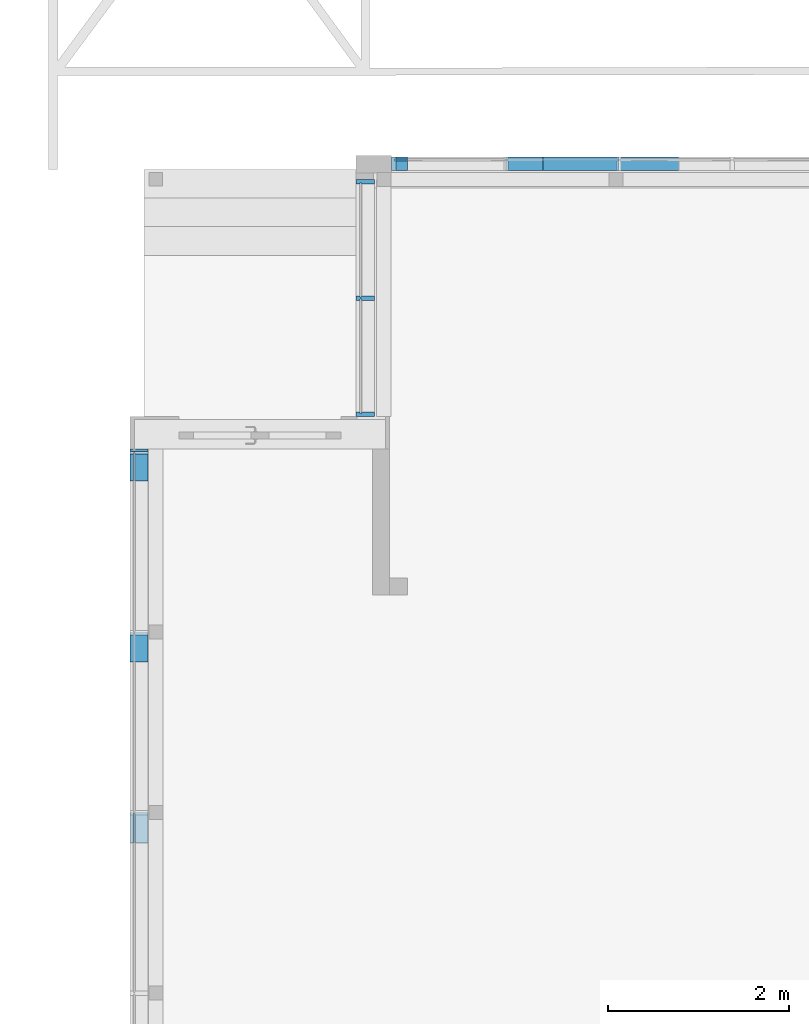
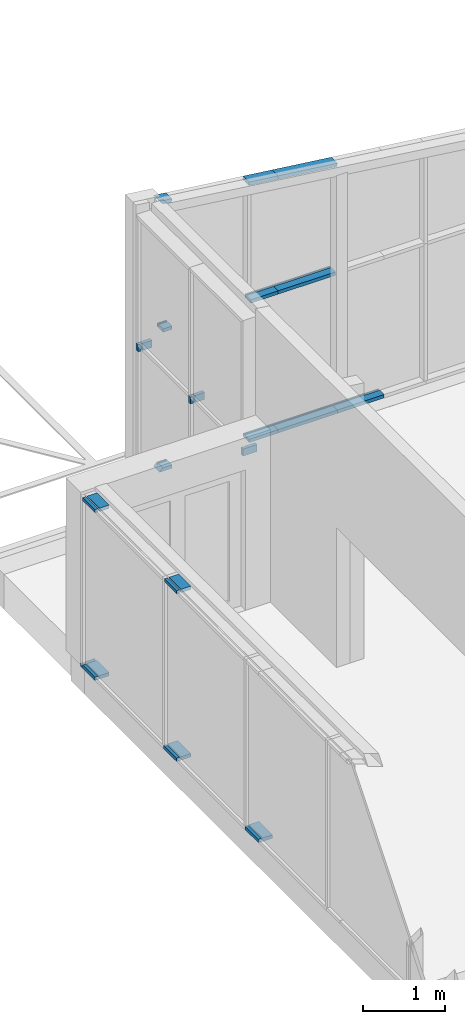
# One storey, part 71 of 301: 19 members, 3 elements without a shape of their own.
"""IFC2X3 building model written with IfcOpenShell, lengths in millimetres."""

from ifc_helpers import new_model, entity, si_unit, converted_unit, derived_unit, money_unit, direction, frame, origin_with_axes, place, context, subcontext, project, spatial, faceted_brep, material, type_object, element, aggregate, save


model = new_model("IFC2X3")

# Units and contexts
model_context = context("Model", 3, precision=0.01, world=origin_with_axes(), true_north=direction((0.0, 1.0)))
body_context = subcontext(model_context, "Body", "Model", "MODEL_VIEW")
ifc_project = project(units=[si_unit("LENGTHUNIT", "METRE", prefix="MILLI"), si_unit("AREAUNIT", "SQUARE_METRE"), si_unit("VOLUMEUNIT", "CUBIC_METRE"), converted_unit("PLANEANGLEUNIT", "DEGREE", entity("IfcPlaneAngleMeasure", 0.0174532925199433), si_unit("PLANEANGLEUNIT", "RADIAN"), dimensions=[0, 0, 0, 0, 0, 0, 0]), money_unit("EUR"), converted_unit("TIMEUNIT", "Year", entity("IfcTimeMeasure", 31557600.0), si_unit("TIMEUNIT", "SECOND"), dimensions=[0, 0, 1, 0, 0, 0, 0]), si_unit("MASSUNIT", "GRAM", prefix="KILO"), si_unit("THERMODYNAMICTEMPERATUREUNIT", "DEGREE_CELSIUS"), si_unit("LUMINOUSINTENSITYUNIT", "LUMEN"), si_unit("ENERGYUNIT", "JOULE", prefix="MEGA"), derived_unit("THERMALCONDUCTANCEUNIT", [(si_unit("POWERUNIT", "WATT"), 1), (si_unit("LENGTHUNIT", "METRE"), -1), (si_unit("THERMODYNAMICTEMPERATUREUNIT", "KELVIN"), -1)]), derived_unit("SPECIFICHEATCAPACITYUNIT", [(si_unit("ENERGYUNIT", "JOULE"), 1), (si_unit("MASSUNIT", "GRAM", prefix="KILO"), -1), (si_unit("THERMODYNAMICTEMPERATUREUNIT", "KELVIN"), -1)]), derived_unit("MASSDENSITYUNIT", [(si_unit("MASSUNIT", "GRAM", prefix="KILO"), 1), (si_unit("VOLUMEUNIT", "CUBIC_METRE"), -1)])], contexts=[model_context])

# Site, building, storey
site_placement = place(None, frame((0.0, 0.0, 8650.0), z_axis=(0.0, 0.0, 1.0), x_axis=(1.0, 0.0, 0.0)))
site = spatial("IfcSite", under=ifc_project, at=site_placement, Name="43301:001:0844", CompositionType="ELEMENT")
building_placement = place(site_placement, origin_with_axes())
building = spatial("IfcBuilding", under=site, at=building_placement, Name="Kuressaare Ametikooli tuulikute mehaanikute õppekorpus", CompositionType="ELEMENT")
storey_placement = place(building_placement, origin_with_axes())
storey = spatial("IfcBuildingStorey", under=building, at=storey_placement, Name="1.korrus", CompositionType="ELEMENT", Elevation=0.0)

# Curtain wall, members
curtain_wall_type = type_object("IfcCurtainWallType", Name="Curtain Wall Type", PredefinedType="NOTDEFINED")
curtain_wall_1_placement = place(storey_placement, frame((118344.5490393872, 39517.28066569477, -20.0), z_axis=(0.0, 0.0, 1.0), x_axis=(1.0, 0.0, 0.0)))
curtain_wall_1 = element("IfcCurtainWall", 1, at=curtain_wall_1_placement, inside=storey, type_object=curtain_wall_type, Name="KF-XX")
ifc_material = material(Name="Metall - Alumiinium")
member_type_1 = type_object("IfcMemberType", Name="Boundary Frame 50 x 200", PredefinedType="NOTDEFINED")
member_1_placement = place(curtain_wall_1_placement, frame((0.0, 801.5043310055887, 0.0), z_axis=(0.0, -1.0, 0.0), x_axis=(0.0, 0.0, 1.0)))
member_1 = element("IfcMember", 2, at=member_1_placement, type_object=member_type_1, material=ifc_material, context=body_context, shape_type="Brep", body=[
    faceted_brep([(35.0, -10.00000000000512, 7.450898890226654), (35.0, 10.00000000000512, 7.450898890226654), (49.90179778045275, 10.00000000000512, 0.0), (49.90179778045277, 49.99999999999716, 0.0), (0.0, 49.99999999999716, 24.95089889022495), (0.0, 0.0, 24.95089889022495), (0.0, -150.0000000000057, 24.95089889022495), (49.90179778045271, -150.0000000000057, 0.0), (49.90179778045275, -10.00000000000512, 0.0), (35.0, -10.00000000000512, 0.0), (35.0, 10.00000000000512, 0.0), (0.0, -150.0000000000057, 0.0), (0.0, 0.0, 0.0), (0.0, 49.99999999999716, 0.0)], [[[0, 1, 2, 3, 4, 5, 6, 7, 8]], [[1, 0, 9, 10]], [[10, 2, 1]], [[9, 8, 7, 11, 12, 13, 3, 2, 10]], [[3, 13, 4]], [[12, 5, 4, 13]], [[11, 6, 5, 12]], [[11, 7, 6]], [[0, 8, 9]]]),
])
member_2_placement = place(curtain_wall_1_placement, frame((0.0, -3216.533766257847, 0.0), z_axis=(0.0, -1.0, 0.0), x_axis=(0.0, 0.0, 1.0)))
member_2 = element("IfcMember", 3, at=member_2_placement, type_object=member_type_1, material=ifc_material, context=body_context, shape_type="Brep", body=[
    faceted_brep([(35.00000000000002, -10.00000000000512, 333.485896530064), (35.00000000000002, 10.00000000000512, 333.485896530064), (50.00000000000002, 10.00000000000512, 333.485896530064), (50.00000000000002, 49.99999999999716, 333.485896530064), (0.0, 49.99999999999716, 333.485896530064), (0.0, 0.0, 333.485896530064), (0.0, -150.0000000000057, 333.485896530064), (50.00000000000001, -150.0000000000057, 333.485896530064), (50.00000000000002, -10.00000000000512, 333.485896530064), (35.0, -10.00000000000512, 0.0), (35.0, 10.00000000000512, 0.0), (50.0, 10.00000000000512, 0.0), (50.0, 49.99999999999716, 0.0), (0.0, 49.99999999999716, 0.0), (0.0, 0.0, 0.0), (0.0, -150.0000000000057, 0.0), (49.99999999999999, -150.0000000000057, 0.0), (50.0, -10.00000000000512, 0.0)], [[[0, 1, 2, 3, 4, 5, 6, 7, 8]], [[1, 0, 9, 10]], [[11, 2, 1, 10]], [[2, 11, 12, 3]], [[13, 4, 3, 12]], [[14, 5, 4, 13]], [[15, 6, 5, 14]], [[16, 7, 6, 15]], [[17, 8, 7, 16]], [[0, 8, 17, 9]], [[9, 17, 16, 15, 14, 13, 12, 11, 10]]]),
])
member_3_placement = place(curtain_wall_1_placement, frame((0.0, -1226.533769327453, 0.0), z_axis=(0.0, -1.0, 0.0), x_axis=(0.0, 0.0, 1.0)))
member_3 = element("IfcMember", 4, at=member_3_placement, type_object=member_type_1, material=ifc_material, context=body_context, shape_type="Brep", body=[
    faceted_brep([(35.00000000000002, -10.00000000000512, 323.4858934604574), (35.00000000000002, 10.00000000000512, 323.4858934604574), (50.00000000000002, 10.00000000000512, 323.4858934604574), (50.00000000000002, 49.99999999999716, 323.4858934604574), (0.0, 49.99999999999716, 323.4858934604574), (0.0, 0.0, 323.4858934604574), (0.0, -150.0000000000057, 323.4858934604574), (50.00000000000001, -150.0000000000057, 323.4858934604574), (50.00000000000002, -10.00000000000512, 323.4858934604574), (35.0, -10.00000000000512, 0.0), (35.0, 10.00000000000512, 0.0), (50.0, 10.00000000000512, 0.0), (50.0, 49.99999999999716, 0.0), (0.0, 49.99999999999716, 0.0), (0.0, 0.0, 0.0), (0.0, -150.0000000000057, 0.0), (49.99999999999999, -150.0000000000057, 0.0), (50.0, -10.00000000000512, 0.0)], [[[0, 1, 2, 3, 4, 5, 6, 7, 8]], [[1, 0, 9, 10]], [[11, 2, 1, 10]], [[2, 11, 12, 3]], [[13, 4, 3, 12]], [[14, 5, 4, 13]], [[15, 6, 5, 14]], [[16, 7, 6, 15]], [[17, 8, 7, 16]], [[0, 8, 17, 9]], [[9, 17, 16, 15, 14, 13, 12, 11, 10]]]),
])
member_4_placement = place(curtain_wall_1_placement, frame((0.0, 776.5534321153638, 0.0), z_axis=(0.0, -1.0, 0.0), x_axis=(0.0, 0.0, 1.0)))
member_4 = element("IfcMember", 5, at=member_4_placement, type_object=member_type_1, material=ifc_material, context=body_context, shape_type="Brep", body=[
    faceted_brep([(35.00000000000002, -10.00000000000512, 326.5730949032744), (35.00000000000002, 10.00000000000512, 326.5730949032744), (50.00000000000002, 10.00000000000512, 326.5730949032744), (50.00000000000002, 49.99999999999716, 326.5730949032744), (0.0, 49.99999999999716, 326.5730949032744), (0.0, 0.0, 326.5730949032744), (0.0, -150.0000000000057, 326.5730949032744), (50.00000000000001, -150.0000000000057, 326.5730949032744), (50.00000000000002, -10.00000000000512, 326.5730949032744), (35.0, -10.00000000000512, 17.49999999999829), (35.0, 10.00000000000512, 17.49999999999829), (50.0, 10.00000000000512, 24.99999999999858), (50.0, 49.99999999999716, 24.99999999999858), (0.0, 49.99999999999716, 0.0), (0.0, 0.0, 0.0), (0.0, -150.0000000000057, 0.0), (49.99999999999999, -150.0000000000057, 24.99999999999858), (50.0, -10.00000000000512, 24.99999999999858)], [[[0, 1, 2, 3, 4, 5, 6, 7, 8]], [[1, 0, 9, 10]], [[11, 2, 1, 10]], [[2, 11, 12, 3]], [[4, 3, 12, 13]], [[5, 4, 13, 14]], [[6, 5, 14, 15]], [[7, 6, 15, 16]], [[17, 8, 7, 16]], [[0, 8, 17, 9]], [[9, 17, 16, 15, 14, 13, 12, 11, 10]]]),
])

curtain_wall_2_placement = place(storey_placement, frame((120847.1885681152, 42644.61724537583, 0.0), z_axis=(0.0, 0.0, 1.0), x_axis=(1.0, 0.0, 0.0)))
curtain_wall_2 = element("IfcCurtainWall", 6, at=curtain_wall_2_placement, inside=storey, type_object=curtain_wall_type)
member_5_placement = place(curtain_wall_2_placement, frame((0.0, 655.0000000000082, 2025.000039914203), z_axis=(0.0, 0.0, 1.0), x_axis=(0.0, 1.0, 0.0)))
member_5 = element("IfcMember", 7, at=member_5_placement, type_object=member_type_1, material=ifc_material, context=body_context, shape_type="Brep", body=[
    faceted_brep([(-34.99999999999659, -10.00000000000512, 105.0000030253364), (-49.99999999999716, -10.00000000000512, 105.0000030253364), (-49.99999999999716, -150.0000000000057, 105.0000030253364), (0.0, -150.0000000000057, 105.0000030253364), (0.0, 0.0, 105.0000030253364), (0.0, 49.99999999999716, 105.0000030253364), (-49.99999999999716, 49.99999999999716, 105.0000030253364), (-49.99999999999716, 10.00000000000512, 105.0000030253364), (-34.99999999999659, 10.00000000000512, 105.0000030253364), (-34.99999999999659, -10.00000000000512, 0.0), (-49.99999999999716, -10.00000000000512, 0.0), (-49.99999999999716, -150.0000000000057, 0.0), (0.0, -150.0000000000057, 0.0), (0.0, 0.0, 0.0), (0.0, 49.99999999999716, 0.0), (-49.99999999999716, 49.99999999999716, 0.0), (-49.99999999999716, 10.00000000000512, 0.0), (-34.99999999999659, 10.00000000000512, 0.0)], [[[0, 1, 2, 3, 4, 5, 6, 7, 8]], [[0, 9, 10, 1]], [[10, 11, 2, 1]], [[11, 12, 3, 2]], [[12, 13, 4, 3]], [[13, 14, 5, 4]], [[14, 15, 6, 5]], [[7, 6, 15, 16]], [[16, 17, 8, 7]], [[8, 17, 9, 0]], [[9, 17, 16, 15, 14, 13, 12, 11, 10]]]),
])
member_6_placement = place(curtain_wall_2_placement, frame((0.0, -1964.95053232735, 2025.000039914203), z_axis=(0.0, 0.0, 1.0), x_axis=(0.0, 1.0, 0.0)))
member_6 = element("IfcMember", 8, at=member_6_placement, type_object=member_type_1, material=ifc_material, context=body_context, shape_type="Brep", body=[
    faceted_brep([(34.99999999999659, -10.00000000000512, 105.0000030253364), (34.99999999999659, 10.00000000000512, 105.0000030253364), (49.99999999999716, 10.00000000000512, 105.0000030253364), (49.99999999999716, 49.99999999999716, 105.0000030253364), (0.0, 49.99999999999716, 105.0000030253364), (0.0, 0.0, 105.0000030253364), (0.0, -150.0000000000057, 105.0000030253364), (49.99999999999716, -150.0000000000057, 105.0000030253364), (49.99999999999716, -10.00000000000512, 105.0000030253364), (34.99999999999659, -10.00000000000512, 0.0), (34.99999999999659, 10.00000000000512, 0.0), (49.99999999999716, 10.00000000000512, 0.0), (49.99999999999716, 49.99999999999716, 0.0), (0.0, 49.99999999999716, 0.0), (0.0, 0.0, 0.0), (0.0, -150.0000000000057, 0.0), (49.99999999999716, -150.0000000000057, 0.0), (49.99999999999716, -10.00000000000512, 0.0)], [[[0, 1, 2, 3, 4, 5, 6, 7, 8]], [[1, 0, 9, 10]], [[11, 2, 1, 10]], [[2, 11, 12, 3]], [[13, 4, 3, 12]], [[14, 5, 4, 13]], [[15, 6, 5, 14]], [[16, 7, 6, 15]], [[17, 8, 7, 16]], [[0, 8, 17, 9]], [[9, 17, 16, 15, 14, 13, 12, 11, 10]]]),
])
member_7_placement = place(curtain_wall_2_placement, frame((0.0, -654.9999999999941, 2025.000039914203), z_axis=(0.0, 0.0, 1.0), x_axis=(0.0, 1.0, 0.0)))
member_7 = element("IfcMember", 9, at=member_7_placement, type_object=member_type_1, material=ifc_material, context=body_context, shape_type="Brep", body=[
    faceted_brep([(-9.99999999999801, -10.00000000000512, 105.0000030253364), (-24.99999999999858, -10.00000000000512, 105.0000030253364), (-24.99999999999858, -150.0000000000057, 105.0000030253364), (24.99999999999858, -150.0000000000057, 105.0000030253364), (24.99999999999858, -10.00000000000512, 105.0000030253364), (9.99999999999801, -10.00000000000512, 105.0000030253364), (9.99999999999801, 10.00000000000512, 105.0000030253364), (24.99999999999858, 10.00000000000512, 105.0000030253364), (24.99999999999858, 49.99999999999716, 105.0000030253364), (-24.99999999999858, 49.99999999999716, 105.0000030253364), (-24.99999999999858, 10.00000000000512, 105.0000030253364), (-9.99999999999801, 10.00000000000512, 105.0000030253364), (-9.99999999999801, -10.00000000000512, 0.0), (-24.99999999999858, -10.00000000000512, 0.0), (-24.99999999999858, -150.0000000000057, 0.0), (24.99999999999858, -150.0000000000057, 0.0), (24.99999999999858, -10.00000000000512, 0.0), (9.99999999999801, -10.00000000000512, 0.0), (9.99999999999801, 10.00000000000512, 0.0), (24.99999999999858, 10.00000000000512, 0.0), (24.99999999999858, 49.99999999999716, 0.0), (-24.99999999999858, 49.99999999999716, 0.0), (-24.99999999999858, 10.00000000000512, 0.0), (-9.99999999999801, 10.00000000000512, 0.0)], [[[0, 1, 2, 3, 4, 5, 6, 7, 8, 9, 10, 11]], [[1, 0, 12, 13]], [[1, 13, 14, 2]], [[3, 2, 14, 15]], [[4, 3, 15, 16]], [[4, 16, 17, 5]], [[5, 17, 18, 6]], [[7, 6, 18, 19]], [[19, 20, 8, 7]], [[9, 8, 20, 21]], [[22, 10, 9, 21]], [[11, 10, 22, 23]], [[0, 11, 23, 12]], [[23, 22, 21, 20, 19, 18, 17, 16, 15, 14, 13, 12]]]),
])
aggregate(curtain_wall_2, [member_5, member_6, member_7])

# Member
member_type_2 = type_object("IfcMemberType", Name="Transom Frame 50 x 200", PredefinedType="NOTDEFINED")
member_8_placement = place(curtain_wall_1_placement, frame((0.0, 776.5534321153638, 2530.000039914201), z_axis=(0.0, -1.0, 0.0), x_axis=(0.0, 0.0, 1.0)))
member_8 = element("IfcMember", 10, at=member_8_placement, type_object=member_type_2, material=ifc_material, context=body_context, shape_type="Brep", body=[
    faceted_brep([(-9.999999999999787, -10.00000000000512, 326.5730949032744), (-24.99999999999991, -10.00000000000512, 326.5730949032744), (-24.99999999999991, -150.0000000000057, 326.5730949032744), (24.99999999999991, -150.0000000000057, 326.5730949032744), (24.99999999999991, -10.00000000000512, 326.5730949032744), (10.00000000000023, -10.00000000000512, 326.5730949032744), (10.00000000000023, 10.00000000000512, 326.5730949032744), (24.99999999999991, 10.00000000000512, 326.5730949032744), (24.99999999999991, 49.99999999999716, 326.5730949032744), (-24.99999999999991, 49.99999999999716, 326.5730949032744), (-24.99999999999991, 10.00000000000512, 326.5730949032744), (-9.999999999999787, 10.00000000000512, 326.5730949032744), (-9.999999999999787, -10.00000000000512, 24.99999999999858), (-24.99999999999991, -10.00000000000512, 24.99999999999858), (-24.99999999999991, -150.0000000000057, 24.99999999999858), (24.99999999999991, -150.0000000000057, 24.99999999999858), (24.99999999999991, -10.00000000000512, 24.99999999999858), (9.999999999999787, -10.00000000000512, 24.99999999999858), (9.999999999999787, 10.00000000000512, 24.99999999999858), (24.99999999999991, 10.00000000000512, 24.99999999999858), (24.99999999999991, 49.99999999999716, 24.99999999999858), (-24.99999999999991, 49.99999999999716, 24.99999999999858), (-24.99999999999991, 10.00000000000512, 24.99999999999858), (-9.999999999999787, 10.00000000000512, 24.99999999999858)], [[[0, 1, 2, 3, 4, 5, 6, 7, 8, 9, 10, 11]], [[1, 0, 12, 13]], [[1, 13, 14, 2]], [[2, 14, 15, 3]], [[4, 3, 15, 16]], [[4, 16, 17, 5]], [[5, 17, 18, 6]], [[7, 6, 18, 19]], [[19, 20, 8, 7]], [[8, 20, 21, 9]], [[22, 10, 9, 21]], [[11, 10, 22, 23]], [[0, 11, 23, 12]], [[23, 22, 21, 20, 19, 18, 17, 16, 15, 14, 13, 12]]]),
])

member_9_placement = place(curtain_wall_1_placement, frame((0.0, -1226.533769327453, 2530.000039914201), z_axis=(0.0, -1.0, 0.0), x_axis=(0.0, 0.0, 1.0)))
member_9 = element("IfcMember", 11, at=member_9_placement, type_object=member_type_2, material=ifc_material, context=body_context, shape_type="Brep", body=[
    faceted_brep([(-9.999999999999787, -10.00000000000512, 323.4858934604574), (-24.99999999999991, -10.00000000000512, 323.4858934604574), (-24.99999999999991, -150.0000000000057, 323.4858934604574), (24.99999999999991, -150.0000000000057, 323.4858934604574), (24.99999999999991, -10.00000000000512, 323.4858934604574), (10.00000000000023, -10.00000000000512, 323.4858934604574), (10.00000000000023, 10.00000000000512, 323.4858934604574), (24.99999999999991, 10.00000000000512, 323.4858934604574), (24.99999999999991, 49.99999999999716, 323.4858934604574), (-24.99999999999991, 49.99999999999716, 323.4858934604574), (-24.99999999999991, 10.00000000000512, 323.4858934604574), (-9.999999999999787, 10.00000000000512, 323.4858934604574), (-9.999999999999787, -10.00000000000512, 24.99999999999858), (-24.99999999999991, -10.00000000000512, 24.99999999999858), (-24.99999999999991, -150.0000000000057, 24.99999999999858), (24.99999999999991, -150.0000000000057, 24.99999999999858), (24.99999999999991, -10.00000000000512, 24.99999999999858), (9.999999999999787, -10.00000000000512, 24.99999999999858), (9.999999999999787, 10.00000000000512, 24.99999999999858), (24.99999999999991, 10.00000000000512, 24.99999999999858), (24.99999999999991, 49.99999999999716, 24.99999999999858), (-24.99999999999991, 49.99999999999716, 24.99999999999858), (-24.99999999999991, 10.00000000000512, 24.99999999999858), (-9.999999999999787, 10.00000000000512, 24.99999999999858)], [[[0, 1, 2, 3, 4, 5, 6, 7, 8, 9, 10, 11]], [[1, 0, 12, 13]], [[1, 13, 14, 2]], [[2, 14, 15, 3]], [[4, 3, 15, 16]], [[4, 16, 17, 5]], [[5, 17, 18, 6]], [[7, 6, 18, 19]], [[19, 20, 8, 7]], [[8, 20, 21, 9]], [[22, 10, 9, 21]], [[11, 10, 22, 23]], [[0, 11, 23, 12]], [[23, 22, 21, 20, 19, 18, 17, 16, 15, 14, 13, 12]]]),
])

aggregate(curtain_wall_1, [member_8, member_1, member_2, member_3, member_4, member_9])

# Curtain wall, members
curtain_wall_3_placement = place(storey_placement, frame((123006.726034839, 43517.8284534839, -3.991420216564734e-05), z_axis=(0.0, 0.0, 1.0), x_axis=(1.0, 0.0, 0.0)))
curtain_wall_3 = element("IfcCurtainWall", 12, at=curtain_wall_3_placement, inside=storey, type_object=curtain_wall_type, Name="KF-XX")
member_type_3 = type_object("IfcMemberType", Name="Boundary Frame 50 x 150", PredefinedType="NOTDEFINED")
member_10_placement = place(curtain_wall_3_placement, frame((-1820.473714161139, 0.0, 4049.999994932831), z_axis=(0.9924853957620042, 0.0, -0.1223631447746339), x_axis=(-0.1223631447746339, 0.0, -0.9924853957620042)))
member_10 = element("IfcMember", 13, at=member_10_placement, type_object=member_type_3, material=ifc_material, context=body_context, shape_type="Brep", body=[
    faceted_brep([(35.00000000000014, -9.99999999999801, 178.947094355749), (35.00000000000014, 9.99999999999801, 178.947094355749), (50.00000000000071, 9.99999999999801, 178.9470943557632), (50.00000000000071, 30.00000000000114, 178.9470943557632), (0.0, 30.00000000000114, 178.9470943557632), (0.0, 0.0, 178.9470943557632), (0.0, -119.9999999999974, 178.9470943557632), (50.00000000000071, -119.9999999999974, 178.9470943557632), (50.00000000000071, -9.99999999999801, 178.9470943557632), (35.00000000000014, -9.99999999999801, 39.58013914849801), (35.00000000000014, 9.99999999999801, 39.58013914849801), (50.00000000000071, 9.99999999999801, 56.54305592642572), (50.00000000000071, 30.00000000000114, 56.54305592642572), (0.0, 30.00000000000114, 0.0), (0.0, 0.0, 0.0), (0.0, -119.9999999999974, 0.0), (50.00000000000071, -119.9999999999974, 56.54305592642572), (50.00000000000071, -9.99999999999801, 56.54305592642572)], [[[0, 1, 2, 3, 4, 5, 6, 7, 8]], [[1, 0, 9, 10]], [[11, 2, 1, 10]], [[2, 11, 12, 3]], [[4, 3, 12, 13]], [[5, 4, 13, 14]], [[6, 5, 14, 15]], [[7, 6, 15, 16]], [[17, 8, 7, 16]], [[0, 8, 17, 9]], [[9, 17, 16, 15, 14, 13, 12, 11, 10]]]),
])
member_11_placement = place(curtain_wall_3_placement, frame((-552.1759647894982, 0.0, 3893.632345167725), z_axis=(0.9924854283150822, 0.0, -0.1223628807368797), x_axis=(-0.1223628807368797, 0.0, -0.9924854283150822)))
member_11 = element("IfcMember", 14, at=member_11_placement, type_object=member_type_3, material=ifc_material, context=body_context, shape_type="Brep", body=[
    faceted_brep([(35.00000000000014, -9.99999999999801, 412.4036604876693), (35.00000000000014, 9.99999999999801, 412.4036604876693), (49.99999999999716, 9.99999999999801, 412.4036604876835), (49.99999999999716, 30.00000000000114, 412.4036604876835), (0.0, 30.00000000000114, 412.4036604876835), (0.0, 0.0, 412.4036604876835), (0.0, -119.9999999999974, 412.4036604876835), (49.99999999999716, -119.9999999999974, 412.4036604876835), (49.99999999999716, -9.99999999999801, 412.4036604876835), (34.99999999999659, -9.99999999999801, 0.0), (34.99999999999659, 9.99999999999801, 0.0), (49.99999999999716, 9.99999999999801, 0.0), (49.99999999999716, 30.00000000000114, 0.0), (0.0, 30.00000000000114, 0.0), (0.0, 0.0, 0.0), (0.0, -119.9999999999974, 0.0), (49.99999999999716, -119.9999999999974, 0.0), (49.99999999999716, -9.99999999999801, 0.0)], [[[0, 1, 2, 3, 4, 5, 6, 7, 8]], [[1, 0, 9, 10]], [[11, 2, 1, 10]], [[2, 11, 12, 3]], [[13, 4, 3, 12]], [[14, 5, 4, 13]], [[15, 6, 5, 14]], [[16, 7, 6, 15]], [[17, 8, 7, 16]], [[0, 8, 17, 9]], [[9, 17, 16, 15, 14, 13, 12, 11, 10]]]),
])
member_12_placement = place(curtain_wall_3_placement, frame((-142.8713429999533, 0.0, 0.0), z_axis=(-1.0, 0.0, 0.0), x_axis=(0.0, 0.0, 1.0)))
member_12 = element("IfcMember", 15, at=member_12_placement, type_object=member_type_3, material=ifc_material, context=body_context, shape_type="Brep", body=[
    faceted_brep([(35.0, -9.99999999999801, 409.3046325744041), (35.0, 9.99999999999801, 409.3046325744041), (50.0, 9.99999999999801, 409.3046325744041), (50.0, 30.00000000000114, 409.3046325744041), (0.0, 30.00000000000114, 409.3046325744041), (0.0, 0.0, 409.3046325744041), (0.0, -119.9999999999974, 409.3046325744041), (50.0, -119.9999999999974, 409.3046325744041), (50.0, -9.99999999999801, 409.3046325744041), (35.0, -9.99999999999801, 0.0), (35.0, 9.99999999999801, 0.0), (50.0, 9.99999999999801, 0.0), (50.0, 30.00000000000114, 0.0), (0.0, 30.00000000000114, 0.0), (0.0, 0.0, 0.0), (0.0, -119.9999999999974, 0.0), (50.0, -119.9999999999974, 0.0), (50.0, -9.99999999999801, 0.0)], [[[0, 1, 2, 3, 4, 5, 6, 7, 8]], [[1, 0, 9, 10]], [[11, 2, 1, 10]], [[2, 11, 12, 3]], [[13, 4, 3, 12]], [[14, 5, 4, 13]], [[15, 6, 5, 14]], [[16, 7, 6, 15]], [[17, 8, 7, 16]], [[0, 8, 17, 9]], [[9, 17, 16, 15, 14, 13, 12, 11, 10]]]),
])
member_13_placement = place(curtain_wall_3_placement, frame((1357.128657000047, 0.0, 0.0), z_axis=(-1.0, 0.0, 0.0), x_axis=(0.0, 0.0, 1.0)))
member_13 = element("IfcMember", 16, at=member_13_placement, type_object=member_type_3, material=ifc_material, context=body_context, shape_type="Brep", body=[
    faceted_brep([(35.0, -9.99999999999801, 662.0813384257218), (35.0, 9.99999999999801, 662.0813384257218), (50.0, 9.99999999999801, 662.0813384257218), (50.0, 30.00000000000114, 662.0813384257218), (0.0, 30.00000000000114, 662.0813384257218), (0.0, 0.0, 662.0813384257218), (0.0, -119.9999999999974, 662.0813384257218), (50.0, -119.9999999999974, 662.0813384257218), (50.0, -9.99999999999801, 662.0813384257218), (35.0, -9.99999999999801, 0.0), (35.0, 9.99999999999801, 0.0), (50.0, 9.99999999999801, 0.0), (50.0, 30.00000000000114, 0.0), (0.0, 30.00000000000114, 0.0), (0.0, 0.0, 0.0), (0.0, -119.9999999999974, 0.0), (50.0, -119.9999999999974, 0.0), (50.0, -9.99999999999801, 0.0)], [[[0, 1, 2, 3, 4, 5, 6, 7, 8]], [[1, 0, 9, 10]], [[11, 2, 1, 10]], [[2, 11, 12, 3]], [[13, 4, 3, 12]], [[14, 5, 4, 13]], [[15, 6, 5, 14]], [[16, 7, 6, 15]], [[17, 8, 7, 16]], [[0, 8, 17, 9]], [[9, 17, 16, 15, 14, 13, 12, 11, 10]]]),
])
member_14_placement = place(curtain_wall_3_placement, frame((-142.8713429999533, 0.0, 3843.169445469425), z_axis=(0.9924854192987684, 0.0, -0.1223629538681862), x_axis=(-0.1223629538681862, 0.0, -0.9924854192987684)))
member_14 = element("IfcMember", 17, at=member_14_placement, type_object=member_type_3, material=ifc_material, context=body_context, shape_type="Brep", body=[
    faceted_brep([(35.00000000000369, -9.99999999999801, 844.2629481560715), (35.00000000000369, 9.99999999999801, 844.2629481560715), (50.00000000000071, 9.99999999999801, 844.2629481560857), (50.00000000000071, 30.00000000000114, 844.2629481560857), (0.0, 30.00000000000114, 844.2629481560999), (0.0, 0.0, 844.2629481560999), (0.0, -119.9999999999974, 844.2629481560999), (50.00000000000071, -119.9999999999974, 844.2629481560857), (50.00000000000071, -9.99999999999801, 844.2629481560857), (35.00000000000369, -9.99999999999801, -1.842124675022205e-06), (35.00000000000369, 9.99999999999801, -1.842124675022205e-06), (50.00000000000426, 9.99999999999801, -1.842124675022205e-06), (50.00000000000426, 30.00000000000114, -1.842124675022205e-06), (0.0, 30.00000000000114, -1.842124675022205e-06), (0.0, 0.0, -1.842124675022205e-06), (0.0, -119.9999999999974, -1.842124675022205e-06), (50.00000000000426, -119.9999999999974, -1.842124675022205e-06), (50.00000000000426, -9.99999999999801, -1.842124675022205e-06)], [[[0, 1, 2, 3, 4, 5, 6, 7, 8]], [[1, 0, 9, 10]], [[11, 2, 1, 10]], [[2, 11, 12, 3]], [[13, 4, 3, 12]], [[14, 5, 4, 13]], [[15, 6, 5, 14]], [[16, 7, 6, 15]], [[17, 8, 7, 16]], [[0, 8, 17, 9]], [[9, 17, 16, 15, 14, 13, 12, 11, 10]]]),
])
member_15_placement = place(curtain_wall_3_placement, frame((-1642.871342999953, 0.0, 0.0), z_axis=(-1.0, 0.0, 0.0), x_axis=(0.0, 0.0, 1.0)))
member_15 = element("IfcMember", 18, at=member_15_placement, type_object=member_type_3, material=ifc_material, context=body_context, shape_type="Brep", body=[
    faceted_brep([(35.0, -9.99999999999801, 142.602371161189), (35.0, 9.99999999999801, 142.602371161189), (50.0, 9.99999999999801, 127.6023711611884), (50.0, 30.00000000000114, 127.6023711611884), (0.0, 30.00000000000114, 177.6023711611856), (0.0, 0.0, 177.6023711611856), (0.0, -119.9999999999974, 177.6023711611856), (50.0, -119.9999999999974, 127.6023711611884), (50.0, -9.99999999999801, 127.6023711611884), (35.0, -9.99999999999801, 0.0), (35.0, 9.99999999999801, 0.0), (50.0, 9.99999999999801, 0.0), (50.0, 30.00000000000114, 0.0), (0.0, 30.00000000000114, 0.0), (0.0, 0.0, 0.0), (0.0, -119.9999999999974, 0.0), (50.0, -119.9999999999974, 0.0), (50.0, -9.99999999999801, 0.0)], [[[0, 1, 2, 3, 4, 5, 6, 7, 8]], [[1, 0, 9, 10]], [[11, 2, 1, 10]], [[2, 11, 12, 3]], [[13, 4, 3, 12]], [[14, 5, 4, 13]], [[15, 6, 5, 14]], [[16, 7, 6, 15]], [[17, 8, 7, 16]], [[0, 8, 17, 9]], [[9, 17, 16, 15, 14, 13, 12, 11, 10]]]),
])
member_16_placement = place(curtain_wall_3_placement, frame((695.0473185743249, 0.0, 0.0), z_axis=(-1.0, 0.0, 0.0), x_axis=(0.0, 0.0, 1.0)))
member_16 = element("IfcMember", 19, at=member_16_placement, type_object=member_type_3, material=ifc_material, context=body_context, shape_type="Brep", body=[
    faceted_brep([(35.0, -9.99999999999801, 837.9186615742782), (35.0, 9.99999999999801, 837.9186615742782), (50.0, 9.99999999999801, 837.9186615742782), (50.0, 30.00000000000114, 837.9186615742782), (0.0, 30.00000000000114, 837.9186615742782), (0.0, 0.0, 837.9186615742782), (0.0, -119.9999999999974, 837.9186615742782), (50.0, -119.9999999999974, 837.9186615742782), (50.0, -9.99999999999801, 837.9186615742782), (35.0, -9.99999999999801, 0.0), (35.0, 9.99999999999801, 0.0), (50.0, 9.99999999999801, 0.0), (50.0, 30.00000000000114, 0.0), (0.0, 30.00000000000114, 0.0), (0.0, 0.0, 0.0), (0.0, -119.9999999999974, 0.0), (50.0, -119.9999999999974, 0.0), (50.0, -9.99999999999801, 0.0)], [[[0, 1, 2, 3, 4, 5, 6, 7, 8]], [[1, 0, 9, 10]], [[11, 2, 1, 10]], [[2, 11, 12, 3]], [[13, 4, 3, 12]], [[14, 5, 4, 13]], [[15, 6, 5, 14]], [[16, 7, 6, 15]], [[17, 8, 7, 16]], [[0, 8, 17, 9]], [[9, 17, 16, 15, 14, 13, 12, 11, 10]]]),
])
member_type_4 = type_object("IfcMemberType", Name="Transom Frame 50 x 150", PredefinedType="NOTDEFINED")
member_17_placement = place(curtain_wall_3_placement, frame((695.0473185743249, 0.0, 2100.000039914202), z_axis=(-1.0, 0.0, 0.0), x_axis=(0.0, 0.0, 1.0)))
member_17 = element("IfcMember", 20, at=member_17_placement, type_object=member_type_4, material=ifc_material, context=body_context, shape_type="Brep", body=[
    faceted_brep([(-9.999999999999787, -9.99999999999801, 837.9186615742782), (-24.99999999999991, -9.99999999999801, 837.9186615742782), (-24.99999999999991, -119.9999999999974, 837.9186615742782), (24.99999999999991, -119.9999999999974, 837.9186615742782), (24.99999999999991, -9.99999999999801, 837.9186615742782), (9.999999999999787, -9.99999999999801, 837.9186615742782), (9.999999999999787, 9.99999999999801, 837.9186615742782), (24.99999999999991, 9.99999999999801, 837.9186615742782), (24.99999999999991, 30.00000000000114, 837.9186615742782), (-24.99999999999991, 30.00000000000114, 837.9186615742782), (-24.99999999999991, 9.99999999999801, 837.9186615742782), (-9.999999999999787, 9.99999999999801, 837.9186615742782), (-9.999999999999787, -9.99999999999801, 25.00000002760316), (-24.99999999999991, -9.99999999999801, 25.00000002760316), (-24.99999999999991, -119.9999999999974, 25.0000003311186), (24.99999999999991, -119.9999999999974, 25.0000003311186), (24.99999999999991, -9.99999999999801, 25.00000002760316), (9.999999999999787, -9.99999999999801, 25.00000002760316), (9.999999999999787, 9.99999999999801, 24.9999999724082), (24.99999999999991, 9.99999999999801, 24.9999999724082), (24.99999999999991, 30.00000000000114, 24.99999991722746), (-24.99999999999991, 30.00000000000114, 24.99999991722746), (-24.99999999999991, 9.99999999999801, 24.9999999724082), (-9.999999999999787, 9.99999999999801, 24.9999999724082)], [[[0, 1, 2, 3, 4, 5, 6, 7, 8, 9, 10, 11]], [[1, 0, 12, 13]], [[1, 13, 14, 2]], [[2, 14, 15, 3]], [[4, 3, 15, 16]], [[4, 16, 17, 5]], [[5, 17, 18, 6]], [[7, 6, 18, 19]], [[19, 20, 8, 7]], [[8, 20, 21, 9]], [[22, 10, 9, 21]], [[11, 10, 22, 23]], [[0, 11, 23, 12]], [[23, 22, 21, 20, 19, 18, 17, 16, 15, 14, 13, 12]]]),
])
member_18_placement = place(curtain_wall_3_placement, frame((-142.8713429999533, 0.0, 2100.000039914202), z_axis=(-1.0, 0.0, 0.0), x_axis=(0.0, 0.0, 1.0)))
member_18 = element("IfcMember", 21, at=member_18_placement, type_object=member_type_4, material=ifc_material, context=body_context, shape_type="Brep", body=[
    faceted_brep([(-9.999999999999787, -9.99999999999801, 384.3046325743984), (-24.99999999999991, -9.99999999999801, 384.3046325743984), (-24.99999999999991, -119.9999999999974, 384.3046325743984), (24.99999999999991, -119.9999999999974, 384.3046325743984), (24.99999999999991, -9.99999999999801, 384.3046325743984), (9.999999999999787, -9.99999999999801, 384.3046325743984), (9.999999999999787, 9.99999999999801, 384.3046325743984), (24.99999999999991, 9.99999999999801, 384.3046325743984), (24.99999999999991, 30.00000000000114, 384.3046325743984), (-24.99999999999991, 30.00000000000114, 384.3046325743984), (-24.99999999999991, 9.99999999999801, 384.3046325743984), (-9.999999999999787, 9.99999999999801, 384.3046325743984), (-9.999999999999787, -9.99999999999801, 0.0), (-24.99999999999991, -9.99999999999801, 0.0), (-24.99999999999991, -119.9999999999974, 0.0), (24.99999999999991, -119.9999999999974, 0.0), (24.99999999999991, -9.99999999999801, 0.0), (9.999999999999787, -9.99999999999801, 0.0), (9.999999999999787, 9.99999999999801, 0.0), (24.99999999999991, 9.99999999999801, 0.0), (24.99999999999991, 30.00000000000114, 0.0), (-24.99999999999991, 30.00000000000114, 0.0), (-24.99999999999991, 9.99999999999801, 0.0), (-9.999999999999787, 9.99999999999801, 0.0)], [[[0, 1, 2, 3, 4, 5, 6, 7, 8, 9, 10, 11]], [[1, 0, 12, 13]], [[1, 13, 14, 2]], [[3, 2, 14, 15]], [[4, 3, 15, 16]], [[4, 16, 17, 5]], [[5, 17, 18, 6]], [[7, 6, 18, 19]], [[19, 20, 8, 7]], [[9, 8, 20, 21]], [[22, 10, 9, 21]], [[11, 10, 22, 23]], [[0, 11, 23, 12]], [[23, 22, 21, 20, 19, 18, 17, 16, 15, 14, 13, 12]]]),
])
member_19_placement = place(curtain_wall_3_placement, frame((-1642.871342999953, 0.0, 2100.000039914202), z_axis=(-1.0, 0.0, 0.0), x_axis=(0.0, 0.0, 1.0)))
member_19 = element("IfcMember", 22, at=member_19_placement, type_object=member_type_4, material=ifc_material, context=body_context, shape_type="Brep", body=[
    faceted_brep([(-9.999999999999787, -9.99999999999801, 127.6023711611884), (-24.99999999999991, -9.99999999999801, 127.6023711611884), (-24.99999999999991, -119.9999999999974, 127.6023711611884), (24.99999999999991, -119.9999999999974, 127.6023711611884), (24.99999999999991, -9.99999999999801, 127.6023711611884), (9.999999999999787, -9.99999999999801, 127.6023711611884), (9.999999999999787, 9.99999999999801, 127.6023711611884), (24.99999999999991, 9.99999999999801, 127.6023711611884), (24.99999999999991, 30.00000000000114, 127.6023711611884), (-24.99999999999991, 30.00000000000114, 127.6023711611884), (-24.99999999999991, 9.99999999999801, 127.6023711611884), (-9.999999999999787, 9.99999999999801, 127.6023711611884), (-9.999999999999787, -9.99999999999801, 0.0), (-24.99999999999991, -9.99999999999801, 0.0), (-24.99999999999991, -119.9999999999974, 0.0), (24.99999999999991, -119.9999999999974, 0.0), (24.99999999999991, -9.99999999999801, 0.0), (9.999999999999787, -9.99999999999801, 0.0), (9.999999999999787, 9.99999999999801, 0.0), (24.99999999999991, 9.99999999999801, 0.0), (24.99999999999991, 30.00000000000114, 0.0), (-24.99999999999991, 30.00000000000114, 0.0), (-24.99999999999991, 9.99999999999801, 0.0), (-9.999999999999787, 9.99999999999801, 0.0)], [[[0, 1, 2, 3, 4, 5, 6, 7, 8, 9, 10, 11]], [[1, 0, 12, 13]], [[1, 13, 14, 2]], [[3, 2, 14, 15]], [[4, 3, 15, 16]], [[4, 16, 17, 5]], [[5, 17, 18, 6]], [[7, 6, 18, 19]], [[19, 20, 8, 7]], [[9, 8, 20, 21]], [[22, 10, 9, 21]], [[11, 10, 22, 23]], [[0, 11, 23, 12]], [[23, 22, 21, 20, 19, 18, 17, 16, 15, 14, 13, 12]]]),
])
aggregate(curtain_wall_3, [member_10, member_17, member_11, member_12, member_18, member_13, member_14, member_19, member_15, member_16])

save(model, "model.ifc")
